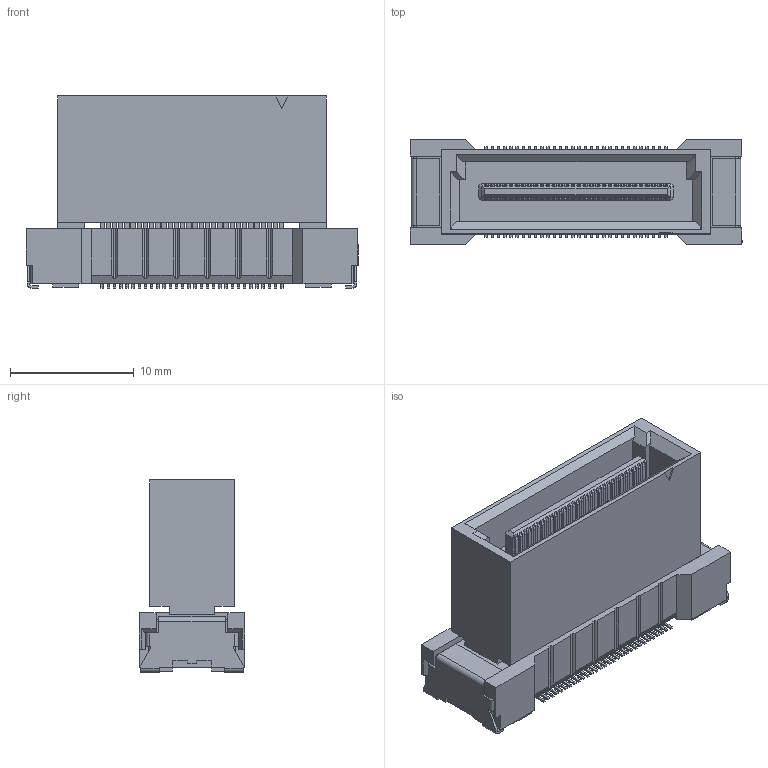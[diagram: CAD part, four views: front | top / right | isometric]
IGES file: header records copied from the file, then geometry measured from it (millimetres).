
Start section: Elysium IGES Interface
Global section: file name: 146HG:\その他\DT関連\【59期以前】\DT_CADﾃﾞｰﾀ\DT_3DCAD\DT0□\FS-10\60-36-0113_WEBサイトアップロード用\ボス無し_DT00-XXXFS-10\P3E104_DT00-060FS-10-T.igs; native system: Creo Elements/Direct Modeling 20.4A  18-Oct-2021; preprocessor: Creo Element/Direct IGES_3D V2.2; author: Unknown; organization: Unknown; date: 20220225.173915; units: millimetre
Bounding box: 26.8 x 8.5 x 15.5 mm (x, y, z)
Volume: 2073.3 mm3; surface area: 2057.6 mm2
Topology: 1 solids, 1 shells, 1801 faces, 5061 edges, 3322 vertices
Faces by surface type: bspline 1801
